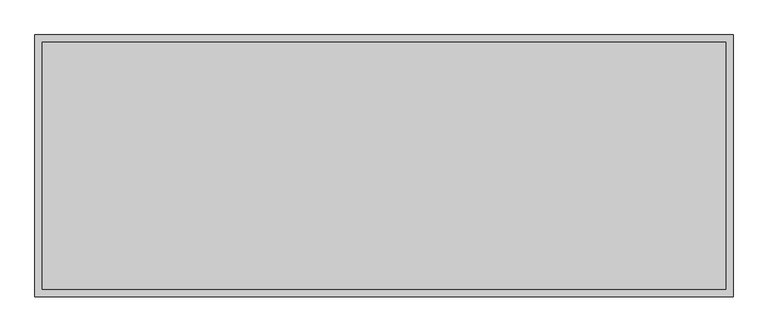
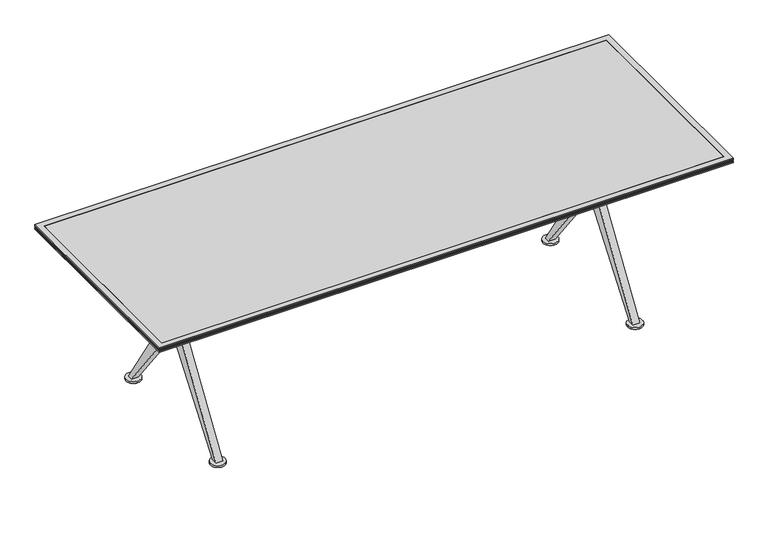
"""IFC4 building model written with IfcOpenShell, lengths in millimetres: furniture geometry, Coalesse_AM_Table_Conference_Ballet_Rectangular_XBase : Non Folding - 96L x 36W."""

from ifc_helpers import new_model, si_unit, point, frame, frame_2d, origin, origin_with_axes, place, context, project, spatial, polyline, circle_curve, trimmed, segment, composite_curve, outline, extrude, faceted_brep, source, transform, mapped, element, save
from ifc_brep_helpers import plane_surface, cylinder_surface, advanced_brep


def furniture_e8179fcb(model_context):
    return source(origin(), model_context, "Body", "SolidModel", [
        extrude(outline(composite_curve([segment(trimmed(circle_curve(frame_2d((-885.8365536, 310.3799254)), 25.4), [point((-911.2365536, 310.3799254))], [point((-860.4365536, 310.3799254))], False, "CARTESIAN"), True, "CONTINUOUS"), segment(trimmed(circle_curve(frame_2d((-885.8365536, 310.3799254)), 25.4), [point((-860.4365536, 310.3799254))], [point((-911.2365536, 310.3799254))], False, "CARTESIAN"), True, "CONTINUOUS")], self_intersect=False)), origin_with_axes(), (0.0, 0.0, 1.0), 4.5427804),
        extrude(outline(composite_curve([segment(trimmed(circle_curve(frame_2d((-886.4541541, -311.83186)), 25.4), [point((-911.8541541, -311.83186))], [point((-861.0541541, -311.83186))], False, "CARTESIAN"), True, "CONTINUOUS"), segment(trimmed(circle_curve(frame_2d((-886.4541541, -311.83186)), 25.4), [point((-861.0541541, -311.83186))], [point((-911.8541541, -311.83186))], False, "CARTESIAN"), True, "CONTINUOUS")], self_intersect=False)), origin_with_axes(), (0.0, 0.0, 1.0), 4.5427804),
        extrude(outline(composite_curve([segment(trimmed(circle_curve(frame_2d((885.8365536, 310.388)), 25.4), [point((860.4365536, 310.388))], [point((911.2365536, 310.388))], False, "CARTESIAN"), True, "CONTINUOUS"), segment(trimmed(circle_curve(frame_2d((885.8365536, 310.388)), 25.4), [point((911.2365536, 310.388))], [point((860.4365536, 310.388))], False, "CARTESIAN"), True, "CONTINUOUS")], self_intersect=False)), origin_with_axes(), (0.0, 0.0, 1.0), 4.5427804),
        extrude(outline(composite_curve([segment(trimmed(circle_curve(frame_2d((886.4541541, -311.83186)), 25.4), [point((861.0541541, -311.83186))], [point((911.8541541, -311.83186))], False, "CARTESIAN"), True, "CONTINUOUS"), segment(trimmed(circle_curve(frame_2d((886.4541541, -311.83186)), 25.4), [point((911.8541541, -311.83186))], [point((861.0541541, -311.83186))], False, "CARTESIAN"), True, "CONTINUOUS")], self_intersect=False)), origin_with_axes(), (0.0, 0.0, 1.0), 4.5427804),
        extrude(outline(polyline([(14.2874052, 684.964975), (33.39571, 671.4299258), (33.39571, 658.0187742), (14.2874052, 644.483725), (33.39571, 630.9486758), (33.39571, 617.5375242), (14.2874052, 604.002475), (33.39571, 590.4674258), (33.39571, 577.0562742), (14.2874052, 563.521225), (33.39571, 549.9861758), (33.39571, 536.5750242), (14.2874052, 523.039975), (33.39571, 509.5049258), (33.39571, 496.0937742), (14.2874052, 482.558725), (13.5533232, 483.5950761), (32.5754052, 497.0690509), (32.5754052, 509.1521795), (12.9691057, 523.039975), (32.5754052, 536.9277705), (32.5754052, 549.6334295), (12.9691057, 563.521225), (32.5754052, 577.4090205), (32.5754052, 590.1146795), (12.9691057, 604.002475), (32.5754052, 617.8902705), (32.5754052, 630.5959295), (12.9691057, 644.483725), (32.5754052, 658.3715205), (32.5754052, 671.0771795), (12.9691057, 684.964975), (32.0774105, 698.5000242), (33.39571, 698.5000242), (14.2874052, 684.964975)])), frame((-871.5247828, 0.0, 0.0), z_axis=(1.0, 0.0, 0.0), x_axis=(0.0, 1.0, 0.0)), (0.0, 0.0, 1.0), 1743.0622828),
        extrude(outline(composite_curve([segment(trimmed(circle_curve(frame_2d((-885.8365536, 310.3799254)), 31.7510292), [point((-917.5875828, 310.3799254))], [point((-854.0855244, 310.3799254))], False, "CARTESIAN"), True, "CONTINUOUS"), segment(trimmed(circle_curve(frame_2d((-885.8365536, 310.3799254)), 31.7510292), [point((-854.0855244, 310.3799254))], [point((-917.5875828, 310.3799254))], False, "CARTESIAN"), True, "CONTINUOUS")], self_intersect=False)), frame((0.0, 0.0, 4.5427804), z_axis=(0.0, 0.0, 1.0), x_axis=(1.0, 0.0, 0.0)), (0.0, 0.0, 1.0), 8.1572196),
        extrude(outline(composite_curve([segment(trimmed(circle_curve(frame_2d((-886.4541541, -311.83186)), 31.75), [point((-918.2041541, -311.83186))], [point((-854.7041541, -311.83186))], False, "CARTESIAN"), True, "CONTINUOUS"), segment(trimmed(circle_curve(frame_2d((-886.4541541, -311.83186)), 31.75), [point((-854.7041541, -311.83186))], [point((-918.2041541, -311.83186))], False, "CARTESIAN"), True, "CONTINUOUS")], self_intersect=False)), frame((0.0, 0.0, 4.5427804), z_axis=(0.0, 0.0, 1.0), x_axis=(1.0, 0.0, 0.0)), (0.0, 0.0, 1.0), 8.1572196),
        extrude(outline(composite_curve([segment(trimmed(circle_curve(frame_2d((885.8365536, 310.388)), 31.7510292), [point((854.0855244, 310.388))], [point((917.5875828, 310.388))], False, "CARTESIAN"), True, "CONTINUOUS"), segment(trimmed(circle_curve(frame_2d((885.8365536, 310.388)), 31.7510292), [point((917.5875828, 310.388))], [point((854.0855244, 310.388))], False, "CARTESIAN"), True, "CONTINUOUS")], self_intersect=False)), frame((0.0, 0.0, 4.5427804), z_axis=(0.0, 0.0, 1.0), x_axis=(1.0, 0.0, 0.0)), (0.0, 0.0, 1.0), 8.1572196),
        extrude(outline(composite_curve([segment(trimmed(circle_curve(frame_2d((886.4541541, -311.83186)), 31.75), [point((854.7041541, -311.83186))], [point((918.2041541, -311.83186))], False, "CARTESIAN"), True, "CONTINUOUS"), segment(trimmed(circle_curve(frame_2d((886.4541541, -311.83186)), 31.75), [point((918.2041541, -311.83186))], [point((854.7041541, -311.83186))], False, "CARTESIAN"), True, "CONTINUOUS")], self_intersect=False)), frame((0.0, 0.0, 4.5427804), z_axis=(0.0, 0.0, 1.0), x_axis=(1.0, 0.0, 0.0)), (0.0, 0.0, 1.0), 8.1572196),
        extrude(outline(polyline([(21.0343629, 381.0), (21.0343629, 482.7111245), (322.2625018, 12.7), (299.8750745, 12.7), (21.0343629, 381.0)])), frame((871.5375, 0.0, 0.0), z_axis=(1.0, 0.0, 0.0), x_axis=(0.0, 1.0, 0.0)), (0.0, 0.0, 1.0), 28.575),
        extrude(outline(polyline([(-21.0343629, 381.0), (-299.8750745, 12.7), (-322.2625018, 12.7), (-21.0343629, 482.7111245), (-21.0343629, 381.0)])), frame((871.5375, 0.0, 0.0), z_axis=(1.0, 0.0, 0.0), x_axis=(0.0, 1.0, 0.0)), (0.0, 0.0, 1.0), 28.575),
        extrude(outline(polyline([(21.0343629, 381.0), (21.0343629, 482.7111245), (322.2625018, 12.7), (299.8750745, 12.7), (21.0343629, 381.0)])), frame((-900.1125, 0.0, 0.0), z_axis=(1.0, 0.0, 0.0), x_axis=(0.0, 1.0, 0.0)), (0.0, 0.0, 1.0), 28.5877172),
        extrude(outline(polyline([(-21.0343629, 381.0), (-299.8750745, 12.7), (-322.2625018, 12.7), (-21.0343629, 482.7111245), (-21.0343629, 381.0)])), frame((-900.1125, 0.0, 0.0), z_axis=(1.0, 0.0, 0.0), x_axis=(0.0, 1.0, 0.0)), (0.0, 0.0, 1.0), 28.5877172),
        extrude(outline(polyline([(-21.0343629, 577.7388634), (-333.375, 698.5000242), (-305.990625, 698.5000242), (-21.0343629, 641.3500242), (-21.0343629, 577.7388634)])), frame((871.5375, 0.0, 0.0), z_axis=(1.0, 0.0, 0.0), x_axis=(0.0, 1.0, 0.0)), (0.0, 0.0, 1.0), 28.575),
        extrude(outline(polyline([(21.0343629, 577.7388634), (21.0343629, 641.3501773), (305.990625, 698.5000242), (333.375, 698.5000242), (21.0343629, 577.7388634)])), frame((871.5375, 0.0, 0.0), z_axis=(1.0, 0.0, 0.0), x_axis=(0.0, 1.0, 0.0)), (0.0, 0.0, 1.0), 28.575),
        extrude(outline(polyline([(-21.0343629, 577.7388634), (-333.375, 698.5000242), (-305.990625, 698.5000242), (-21.0343629, 641.3500242), (-21.0343629, 577.7388634)])), frame((-900.1125, 0.0, 0.0), z_axis=(1.0, 0.0, 0.0), x_axis=(0.0, 1.0, 0.0)), (0.0, 0.0, 1.0), 28.5877172),
        extrude(outline(polyline([(21.0343629, 577.7388634), (21.0343629, 641.3501773), (305.990625, 698.5000242), (333.375, 698.5000242), (21.0343629, 577.7388634)])), frame((-900.1125, 0.0, 0.0), z_axis=(1.0, 0.0, 0.0), x_axis=(0.0, 1.0, 0.0)), (0.0, 0.0, 1.0), 28.5877172),
        advanced_brep(
        [(864.4154775, 12.6999879, 492.1250121), (-864.4154775, 12.6999879, 492.1250121), (-864.4154775, 12.6999879, 568.3250121), (864.4154775, 12.6999879, 568.3250121), (-861.0125298, 0.0, 568.3250121), (-864.4154775, -12.6999879, 568.3250121), (864.4154775, -12.6999879, 568.3250121), (861.0125298, 0.0, 568.3250121), (-864.4154775, -12.6999879, 492.1250121), (864.4154775, -12.6999879, 492.1250121), (861.0125298, 0.0, 492.1250121), (-861.0125298, 0.0, 492.1250121), (-911.8125298, 0.0, 641.3500242), (-861.0125298, 0.0, 641.3500242), (861.0125298, 0.0, 641.3500242), (911.8125298, 0.0, 641.3500242), (-911.8125298, 0.0, 381.0), (-861.0125298, 0.0, 381.0), (861.0125298, 0.0, 381.0), (911.8125298, 0.0, 381.0)],
        [
            (0, 1),
            (1, 2),
            (2, 3),
            (3, 0),
            (2, 4, circle_curve(frame((-886.4125298, 0.0, 568.3250121), z_axis=(0.0, 0.0, -1.0), x_axis=(1.0, 0.0, 0.0)), 25.4)),
            (4, 5, circle_curve(frame((-886.4125298, 0.0, 568.3250121), z_axis=(0.0, 0.0, -1.0), x_axis=(1.0, 0.0, 0.0)), 25.4)),
            (5, 6),
            (6, 7, circle_curve(frame((886.4125298, 0.0, 568.3250121), z_axis=(0.0, 0.0, -1.0), x_axis=(1.0, 0.0, 0.0)), 25.4)),
            (7, 3, circle_curve(frame((886.4125298, 0.0, 568.3250121), z_axis=(0.0, 0.0, -1.0), x_axis=(1.0, 0.0, 0.0)), 25.4)),
            (5, 8),
            (8, 9),
            (9, 6),
            (0, 10, circle_curve(frame((886.4125298, 0.0, 492.1250121), z_axis=(0.0, 0.0, 1.0), x_axis=(1.0, 0.0, 0.0)), 25.4)),
            (10, 9, circle_curve(frame((886.4125298, 0.0, 492.1250121), z_axis=(0.0, 0.0, 1.0), x_axis=(1.0, 0.0, 0.0)), 25.4)),
            (8, 11, circle_curve(frame((-886.4125298, 0.0, 492.1250121), z_axis=(0.0, 0.0, 1.0), x_axis=(1.0, 0.0, 0.0)), 25.4)),
            (11, 1, circle_curve(frame((-886.4125298, 0.0, 492.1250121), z_axis=(0.0, 0.0, 1.0), x_axis=(1.0, 0.0, 0.0)), 25.4)),
            (12, 13, circle_curve(frame((-886.4125298, 0.0, 641.3500242), z_axis=(0.0, 0.0, 1.0), x_axis=(1.0, 0.0, 0.0)), 25.4)),
            (13, 12, circle_curve(frame((-886.4125298, 0.0, 641.3500242), z_axis=(0.0, 0.0, 1.0), x_axis=(1.0, 0.0, 0.0)), 25.4)),
            (14, 15, circle_curve(frame((886.4125298, 0.0, 641.3500242), z_axis=(0.0, 0.0, 1.0), x_axis=(1.0, 0.0, 0.0)), 25.4)),
            (15, 14, circle_curve(frame((886.4125298, 0.0, 641.3500242), z_axis=(0.0, 0.0, 1.0), x_axis=(1.0, 0.0, 0.0)), 25.4)),
            (16, 17, circle_curve(frame((-886.4125298, 0.0, 381.0), z_axis=(0.0, 0.0, -1.0), x_axis=(1.0, 0.0, 0.0)), 25.4)),
            (17, 16, circle_curve(frame((-886.4125298, 0.0, 381.0), z_axis=(0.0, 0.0, -1.0), x_axis=(1.0, 0.0, 0.0)), 25.4)),
            (18, 19, circle_curve(frame((886.4125298, 0.0, 381.0), z_axis=(0.0, 0.0, -1.0), x_axis=(1.0, 0.0, 0.0)), 25.4)),
            (19, 18, circle_curve(frame((886.4125298, 0.0, 381.0), z_axis=(0.0, 0.0, -1.0), x_axis=(1.0, 0.0, 0.0)), 25.4)),
            (12, 16),
            (17, 11),
            (4, 13),
            (14, 7),
            (10, 18),
            (19, 15),
        ],
        [
            plane_surface(frame((871.5375, 12.6999879, 492.1250121), z_axis=(0.0, 1.0, 0.0), x_axis=(-1.0, 0.0, 0.0))),
            plane_surface(frame((871.5375, 12.6999879, 568.3250121), z_axis=(0.0, 0.0, 1.0), x_axis=(-1.0, 0.0, 0.0))),
            plane_surface(frame((871.5375, -12.6999879, 568.3250121), z_axis=(0.0, -1.0, 0.0), x_axis=(-1.0, 0.0, 0.0))),
            plane_surface(frame((871.5375, -12.6999879, 492.1250121), z_axis=(0.0, 0.0, -1.0), x_axis=(-1.0, 0.0, 0.0))),
            plane_surface(frame((-861.0125298, 0.0, 641.3500242), z_axis=(0.0, 0.0, 1.0), x_axis=(0.0, 1.0, 0.0))),
            plane_surface(frame((-861.0125298, 0.0, 381.0), z_axis=(0.0, 0.0, -1.0), x_axis=(0.0, -1.0, 0.0))),
            cylinder_surface(frame((-886.4125298, 0.0, 381.0), z_axis=(0.0, 0.0, 1.0), x_axis=(1.0, 0.0, 0.0)), 25.4),
            cylinder_surface(frame((886.4125298, 0.0, 0.0), z_axis=(0.0, 0.0, 1.0), x_axis=(1.0, 0.0, 0.0)), 25.4),
        ],
        [
            (0, [[1, 2, 3, 4]]),
            (1, [[-3, 5, 6, 7, 8, 9]]),
            (2, [[-7, 10, 11, 12]]),
            (3, [[-1, 13, 14, -11, 15, 16]]),
            (4, [[17, 18]]),
            (4, [[19, 20]]),
            (5, [[21, 22]]),
            (5, [[23, 24]]),
            (6, [[-17, 25, -22, 26, -15, -10, -6, 27]]),
            (6, [[-18, -27, -5, -2, -16, -26, -21, -25]]),
            (7, [[-19, 28, -8, -12, -14, 29, -24, 30]]),
            (7, [[-20, -30, -23, -29, -13, -4, -9, -28]]),
        ],
    ),
        faceted_brep([(-1219.2003633, 457.2, 704.85), (-1193.8003876, 431.8000242, 698.5000242), (-1193.8003876, -431.7999516, 698.5000242), (-1219.2003633, -457.1999273, 704.85), (-1219.2003633, 457.2, 708.0250242), (-1219.2003633, -457.1999273, 708.0250242), (-1216.0253755, 454.0250121, 709.6125), (-1216.0253755, -454.0249394, 709.6125), (-1219.2003633, 457.2, 711.1999758), (-1219.2003633, -457.1999273, 711.1999758), (-1216.0253755, 454.0250121, 712.7875242), (-1216.0253755, -454.0249394, 712.7875242), (-1219.2003633, 457.2, 714.375), (-1219.2003633, -457.1999273, 714.375), (-1216.0253755, 454.0250121, 715.9624758), (-1216.0253755, -454.0249394, 715.9624758), (-1219.2003633, 457.2, 717.5500242), (-1219.2003633, -457.1999273, 717.5500242), (-1216.0253755, 454.0250121, 719.1375), (-1216.0253755, -454.0249394, 719.1375), (-1219.2003633, 457.2, 720.7249758), (-1219.2003633, -457.1999273, 720.7249758), (-1219.2003633, 457.2, 723.9), (-1219.2003633, -457.1999273, 723.9), (-1193.8003876, 431.8000242, 723.9), (-1193.8003876, -431.7999516, 723.9), (1193.8, -431.7999516, 698.5000242), (1219.1999758, -457.1999273, 704.85), (1219.1999758, -457.1999273, 708.0250242), (1216.0249879, -454.0249394, 709.6125), (1219.1999758, -457.1999273, 711.1999758), (1216.0249879, -454.0249394, 712.7875242), (1219.1999758, -457.1999273, 714.375), (1216.0249879, -454.0249394, 715.9624758), (1219.1999758, -457.1999273, 717.5500242), (1216.0249879, -454.0249394, 719.1375), (1219.1999758, -457.1999273, 720.7249758), (1219.1999758, -457.1999273, 723.9), (1193.8, -431.7999516, 723.9), (1193.8, 431.8000242, 698.5000242), (1219.1999758, 457.2, 704.85), (1219.1999758, 457.2, 708.0250242), (1216.0249879, 454.0250121, 709.6125), (1219.1999758, 457.2, 711.1999758), (1216.0249879, 454.0250121, 712.7875242), (1219.1999758, 457.2, 714.375), (1216.0249879, 454.0250121, 715.9624758), (1219.1999758, 457.2, 717.5500242), (1216.0249879, 454.0250121, 719.1375), (1219.1999758, 457.2, 720.7249758), (1219.1999758, 457.2, 723.9), (1193.8, 431.8000242, 723.9)], [[[0, 1, 2, 3]], [[4, 0, 3, 5]], [[6, 4, 5, 7]], [[8, 6, 7, 9]], [[10, 8, 9, 11]], [[12, 10, 11, 13]], [[14, 12, 13, 15]], [[16, 14, 15, 17]], [[18, 16, 17, 19]], [[20, 18, 19, 21]], [[22, 20, 21, 23]], [[1, 24, 25, 2]], [[3, 2, 26, 27]], [[5, 3, 27, 28]], [[7, 5, 28, 29]], [[9, 7, 29, 30]], [[11, 9, 30, 31]], [[13, 11, 31, 32]], [[15, 13, 32, 33]], [[17, 15, 33, 34]], [[19, 17, 34, 35]], [[21, 19, 35, 36]], [[23, 21, 36, 37]], [[2, 25, 38, 26]], [[27, 26, 39, 40]], [[28, 27, 40, 41]], [[29, 28, 41, 42]], [[30, 29, 42, 43]], [[31, 30, 43, 44]], [[32, 31, 44, 45]], [[33, 32, 45, 46]], [[34, 33, 46, 47]], [[35, 34, 47, 48]], [[36, 35, 48, 49]], [[37, 36, 49, 50]], [[26, 38, 51, 39]], [[40, 39, 1, 0]], [[41, 40, 0, 4]], [[42, 41, 4, 6]], [[43, 42, 6, 8]], [[44, 43, 8, 10]], [[45, 44, 10, 12]], [[46, 45, 12, 14]], [[47, 46, 14, 16]], [[48, 47, 16, 18]], [[49, 48, 18, 20]], [[50, 49, 20, 22]], [[23, 37, 50, 22], [24, 51, 38, 25]], [[39, 51, 24, 1]]]),
        extrude(outline(polyline([(1193.8, 431.8000242), (1193.8, -431.7999516), (-1193.8003876, -431.7999516), (-1193.8003876, 431.8000242), (1193.8, 431.8000242)])), frame((0.0, 0.0, 704.85), z_axis=(0.0, 0.0, 1.0), x_axis=(1.0, 0.0, 0.0)), (0.0, 0.0, 1.0), 19.05),
    ])


if __name__ == "__main__":
    model = new_model("IFC4")
    model_context = context("Model", 3, world=origin())
    ifc_project = project(units=[si_unit("LENGTHUNIT", "METRE", prefix="MILLI")], contexts=[model_context])
    site = spatial("IfcSite", under=ifc_project)
    building = spatial("IfcBuilding", under=site)
    placement = place(None, origin())
    furniture_shape = furniture_e8179fcb(model_context)
    element("IfcFurniture", 1, ObjectType="Coalesse_AM_Table_Conference_Ballet_Rectangular_XBase : Non Folding - 96L x 36W", at=placement, inside=building, context=model_context, shape_type="MappedRepresentation", body=[
        mapped(furniture_shape, transform((0.0, 0.0, 0.0), x_axis=(1.0, 0.0, 0.0), y_axis=(0.0, 1.0, 0.0), z_axis=(0.0, 0.0, 1.0))),
    ])
    save(model, "model.ifc")
